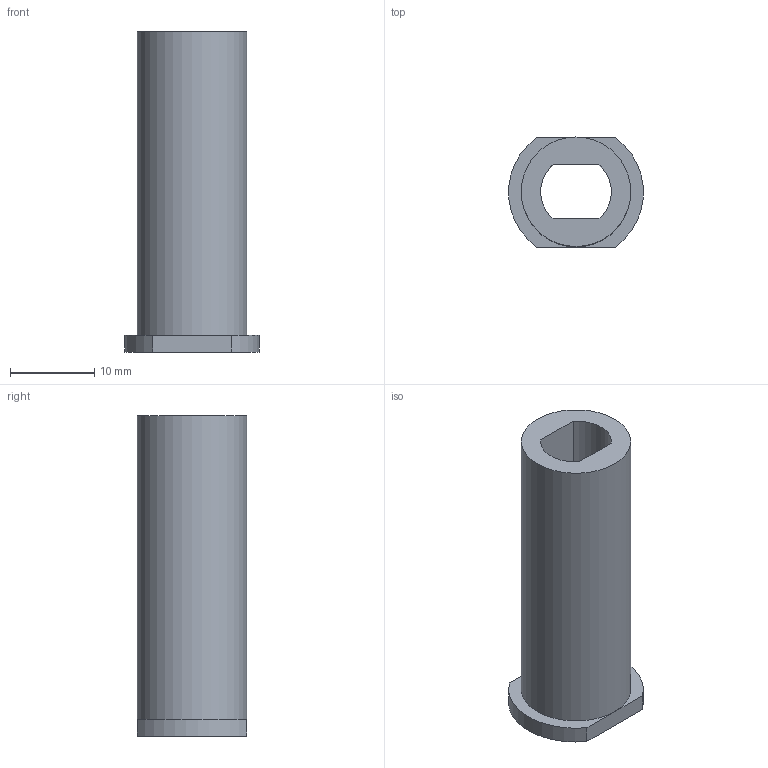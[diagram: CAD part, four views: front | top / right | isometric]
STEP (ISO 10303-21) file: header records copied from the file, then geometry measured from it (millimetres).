
FILE_DESCRIPTION(/* description */ (''),/* implementation_level */ '2;1');
FILE_NAME(/* name */ '3-26-4 Shock tube.step',/* time_stamp */ '2025-05-10T22:05:38+02:00',/* author */ (''),/* organization */ (''),/* preprocessor_version */ 'ST-DEVELOPER v20.1',/* originating_system */ 'Autodesk Translation Framework v14.4.0.0',/* authorisation */ '');
FILE_SCHEMA (('AUTOMOTIVE_DESIGN { 1 0 10303 214 3 1 1 }'));
Length unit declared in the file: millimetre
Products named in the file (1): 09-27-08 Shock tube
Bounding box: 15.94 x 13 x 38 mm (x, y, z)
Volume: 2237.1 mm3; surface area: 3012.7 mm2
Topology: 1 solids, 1 shells, 15 faces, 36 edges, 24 vertices
Faces by surface type: plane 9, cylinder 6
Full cylindrical faces by diameter (mm): 11 x1, 13 x1
Entity records: 489 total; most frequent: DIRECTION 83, CARTESIAN_POINT 76, ORIENTED_EDGE 72, EDGE_CURVE 36, AXIS2_PLACEMENT_3D 31, VERTEX_POINT 24, LINE 21, VECTOR 21
